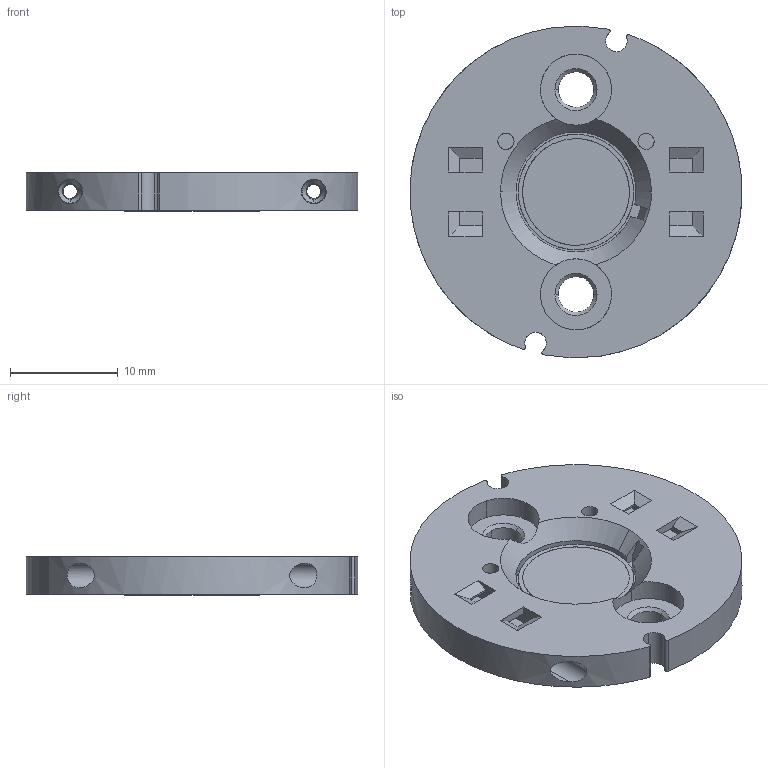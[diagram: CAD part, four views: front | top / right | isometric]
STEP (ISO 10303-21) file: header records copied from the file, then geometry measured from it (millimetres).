
FILE_DESCRIPTION (( 'STEP AP214' ), '1' );
FILE_NAME ('Bridgelux-VeroSE10-M-STP-17-000017-RA.STEP', '2016-11-04T13:15:34', ( '' ), ( '' ), 'SwSTEP 2.0', 'SolidWorks 2016', '' );
FILE_SCHEMA (( 'AUTOMOTIVE_DESIGN' ));
Length unit declared in the file: millimetre
Products named in the file (1): Bridgelux-VeroSE10-M-STP-17-000017-RA
Bounding box: 30.79 x 30.79 x 3.6 mm (x, y, z)
Volume: 1800.5 mm3; surface area: 2809.9 mm2
Topology: 1 solids, 1 shells, 196 faces, 508 edges, 326 vertices
Faces by surface type: plane 102, cylinder 64, bspline 30
Entity records: 8603 total; most frequent: CARTESIAN_POINT 4773, ORIENTED_EDGE 1016, B_SPLINE_CURVE_WITH_KNOTS 508, EDGE_CURVE 508, DIRECTION 334, VERTEX_POINT 326, EDGE_LOOP 232, ADVANCED_FACE 196
